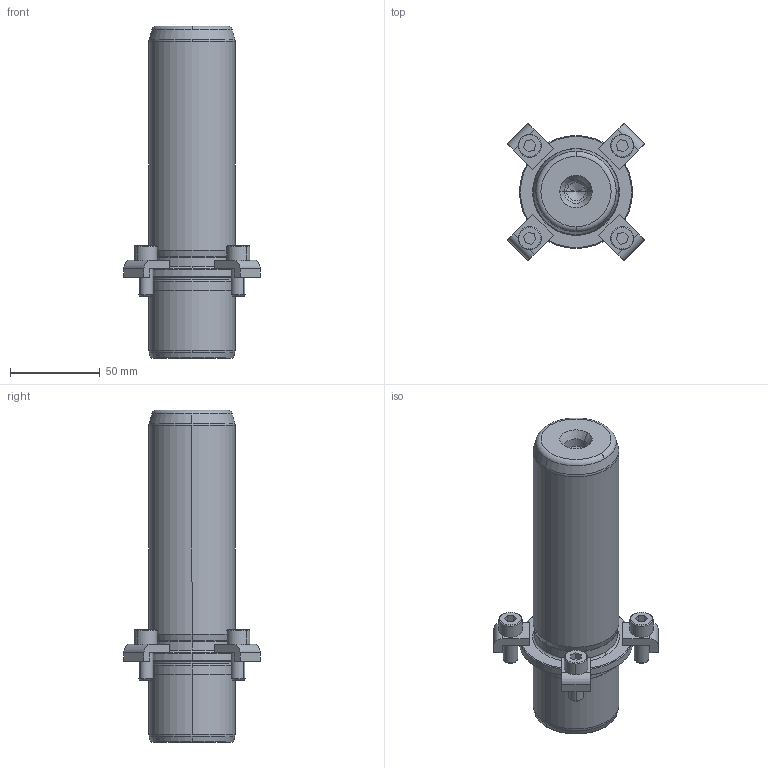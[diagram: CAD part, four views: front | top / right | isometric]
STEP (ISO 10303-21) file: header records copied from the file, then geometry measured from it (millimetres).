
FILE_DESCRIPTION((''),'2;1');
FILE_NAME('P21_048_140.stp','2008-12-23T13:37:26',(''),(''),'Mechanical Desktop 2009','Mechanical Desktop 2009',', , ');
FILE_SCHEMA(('CONFIG_CONTROL_DESIGN'));
Length unit declared in the file: millimetre
Products named in the file (2): Product; blmdl1
Assembly tree (1 placements, depth 2):
  Product
    blmdl1
Bounding box: 76.01 x 76.01 x 185 mm (x, y, z)
Volume: 343840.1 mm3; surface area: 45313.1 mm2
Topology: 9 solids, 9 shells, 195 faces, 477 edges, 309 vertices
Faces by surface type: plane 77, cylinder 52, cone 34, torus 16, bspline 16
Entity records: 6547 total; most frequent: CARTESIAN_POINT 1683, DIRECTION 1078, ORIENTED_EDGE 946, EDGE_CURVE 473, AXIS2_PLACEMENT_3D 424, VERTEX_POINT 309, CIRCLE 243, VECTOR 230
